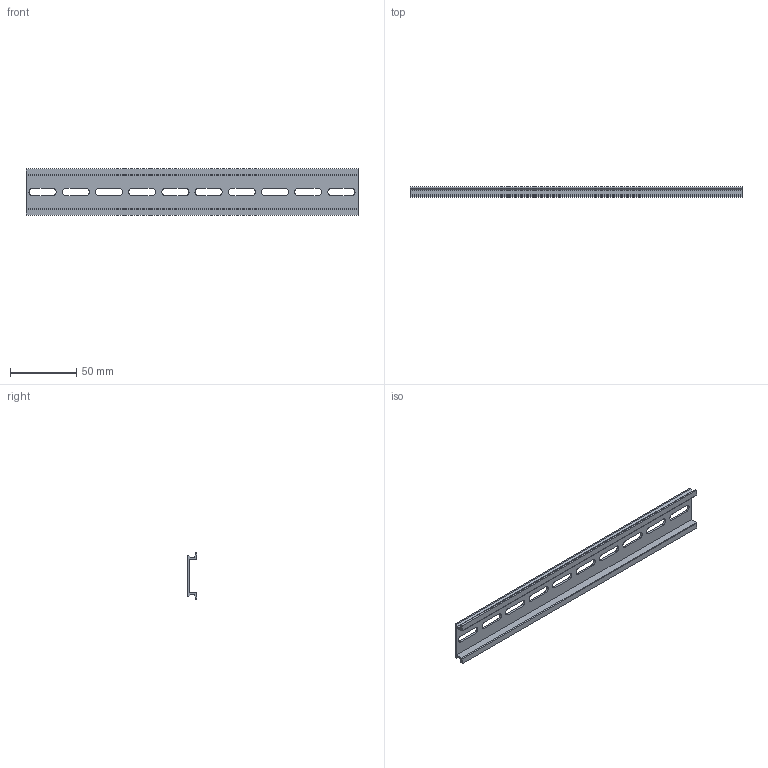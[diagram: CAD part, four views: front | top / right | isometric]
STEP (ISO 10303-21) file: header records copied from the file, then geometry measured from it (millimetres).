
FILE_DESCRIPTION( (''), '2;1');
FILE_NAME ('CVICAD02.15516.DIN-RAIL250_7364.stp','2020-09-01T14:18:14',(''),(''),'spGate 12.6.6','','');
FILE_SCHEMA (('AUTOMOTIVE_DESIGN'));
Length unit declared in the file: millimetre
Bounding box: 250 x 7.5 x 35 mm (x, y, z)
Volume: 17650 mm3; surface area: 23661.9 mm2
Topology: 1 solids, 1 shells, 60 faces, 174 edges, 116 vertices
Faces by surface type: plane 38, cylinder 22
Entity records: 3389 total; most frequent: CARTESIAN_POINT 350, ORIENTED_EDGE 348, DIRECTION 338, COLOUR_RGB 235, PRESENTATION_STYLE_ASSIGNMENT 235, STYLED_ITEM 235, EDGE_CURVE 174, DRAUGHTING_PRE_DEFINED_CURVE_FONT 174
